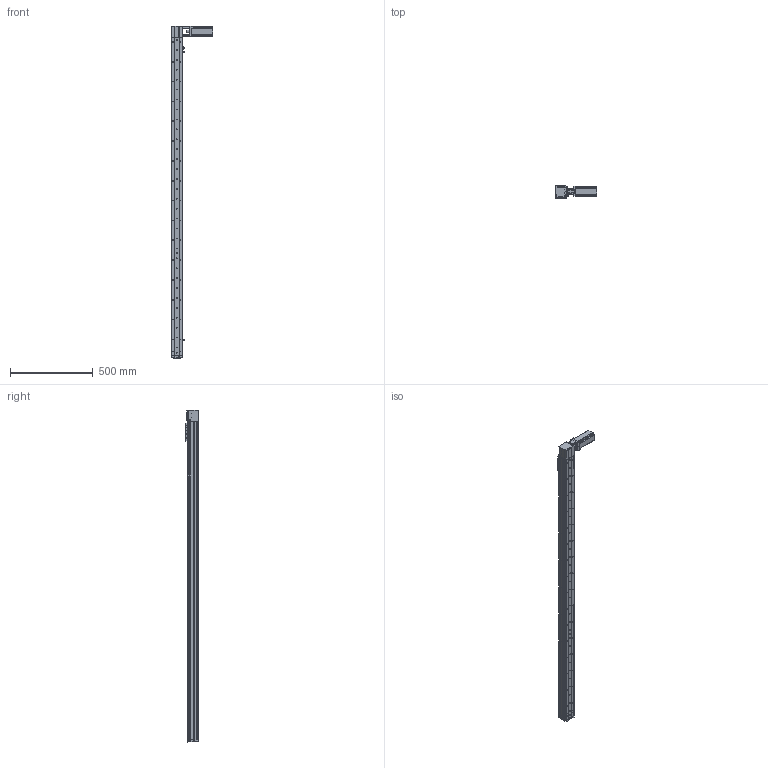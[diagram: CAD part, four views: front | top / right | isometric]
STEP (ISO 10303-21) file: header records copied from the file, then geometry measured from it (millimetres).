
FILE_DESCRIPTION (( 'STEP AP214' ), '1' );
FILE_NAME ('KSD68BS-S1750-MRT-CR.STEP', '2019-11-07T07:01:53', ( '微软用户' ), ( '微软中国' ), 'SwSTEP 2.0', 'SolidWorks 2014', '' );
FILE_SCHEMA (( 'AUTOMOTIVE_DESIGN' ));
Length unit declared in the file: millimetre
Products named in the file (13): KSD68BS-S1750-MRT-CR; 100遵鎮湛假蚾啣1; KSD68BS 1750行程盖板全封闭; 68遵裔啣揤啣1; 68宽单导轨全封闭丝杆传动安装板1防护罩; KSD68BS 1750行程侧板全封闭; 68宽单导轨全封闭同步带端板; 68单导轨全封闭同步带电机座左; 68单导轨全封闭同步带安装板; 感应片68宽全封闭; U倰嫖萇EEㄜSX672; 台达ECMA－C20604AS伺服电机（400W); KSD68BS 1750行程底板全封闭
Assembly tree (16 placements, depth 2):
  KSD68BS-S1750-MRT-CR
    KSD68BS 1750行程底板全封闭
    台达ECMA－C20604AS伺服电机（400W)
    U倰嫖萇EEㄜSX672  x3
    感应片68宽全封闭
    68单导轨全封闭同步带安装板
    68单导轨全封闭同步带电机座左
    68宽单导轨全封闭同步带端板
    KSD68BS 1750行程侧板全封闭  x2
    68宽单导轨全封闭丝杆传动安装板1防护罩
    68遵裔啣揤啣1  x2
    KSD68BS 1750行程盖板全封闭
    100遵鎮湛假蚾啣1
Bounding box: 252.7 x 77 x 2008.1 mm (x, y, z)
Volume: 3495379.1 mm3; surface area: 1410473.8 mm2
Topology: 17 solids, 17 shells, 1577 faces, 4566 edges, 2902 vertices
Faces by surface type: cylinder 779, plane 602, cone 196
Entity records: 52010 total; most frequent: CARTESIAN_POINT 9099, DIRECTION 7653, ORIENTED_EDGE 7328, EDGE_CURVE 3664, AXIS2_PLACEMENT_3D 2804, VERTEX_POINT 2400, LINE 2045, VECTOR 2045
